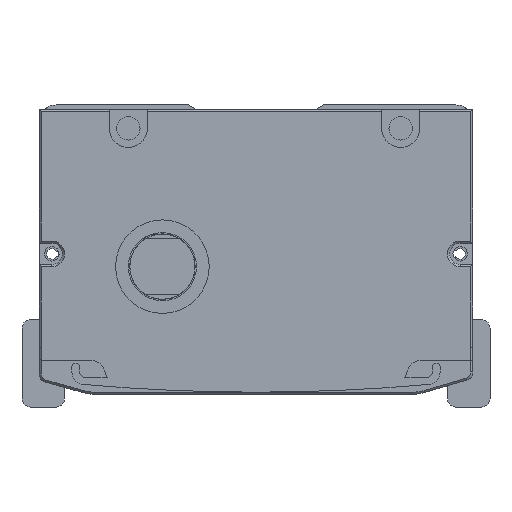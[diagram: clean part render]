
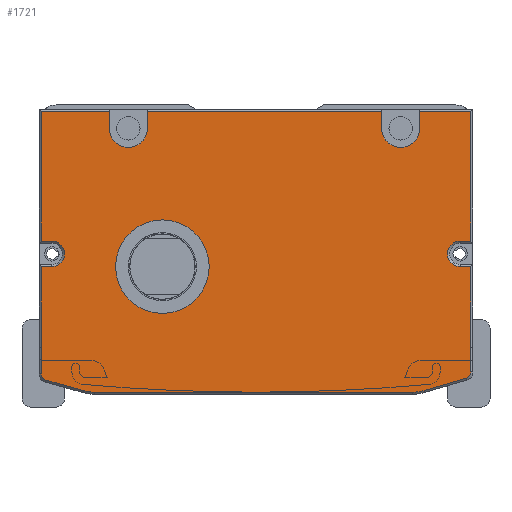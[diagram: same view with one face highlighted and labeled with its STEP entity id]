
A CAD part, front view. The second image highlights one B-rep face of the part: STEP entity #1721.
In plain terms, the highlighted planar face has unit normal (0, -1, 0).
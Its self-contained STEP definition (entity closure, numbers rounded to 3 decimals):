
#1018=FACE_BOUND('',#3599,.T.);
#1019=FACE_BOUND('',#3600,.T.);
#1721=ADVANCED_FACE('',(#1018,#1019),#2434,.F.);
#2434=PLANE('',#14626);
#3599=EDGE_LOOP('',(#6511));
#3600=EDGE_LOOP('',(#6512,#6513,#6514,#6515,#6516,#6517,#6518,#6519,#6520,
#6521,#6522,#6523,#6524,#6525,#6526,#6527,#6528,#6529,#6530,#6531,#6532,
#6533,#6534,#6535,#6536,#6537,#6538,#6539));
#4605=CIRCLE('',#14537,3.);
#4608=CIRCLE('',#14545,3.);
#4611=CIRCLE('',#14557,1.5);
#4613=CIRCLE('',#14561,9.5);
#4615=CIRCLE('',#14565,9.5);
#4617=CIRCLE('',#14569,1.5);
#4622=CIRCLE('',#14584,4.5);
#4626=CIRCLE('',#14590,4.5);
#4627=CIRCLE('',#14599,11.);
#6511=ORIENTED_EDGE('',*,*,#11044,.F.);
#6512=ORIENTED_EDGE('',*,*,#10938,.T.);
#6513=ORIENTED_EDGE('',*,*,#10834,.T.);
#6514=ORIENTED_EDGE('',*,*,#11025,.T.);
#6515=ORIENTED_EDGE('',*,*,#10838,.T.);
#6516=ORIENTED_EDGE('',*,*,#11073,.T.);
#6517=ORIENTED_EDGE('',*,*,#10844,.T.);
#6518=ORIENTED_EDGE('',*,*,#11021,.T.);
#6519=ORIENTED_EDGE('',*,*,#10848,.T.);
#6520=ORIENTED_EDGE('',*,*,#11074,.T.);
#6521=ORIENTED_EDGE('',*,*,#10942,.T.);
#6522=ORIENTED_EDGE('',*,*,#10948,.T.);
#6523=ORIENTED_EDGE('',*,*,#10951,.T.);
#6524=ORIENTED_EDGE('',*,*,#10954,.T.);
#6525=ORIENTED_EDGE('',*,*,#10956,.T.);
#6526=ORIENTED_EDGE('',*,*,#10986,.T.);
#6527=ORIENTED_EDGE('',*,*,#10990,.T.);
#6528=ORIENTED_EDGE('',*,*,#10993,.T.);
#6529=ORIENTED_EDGE('',*,*,#10996,.T.);
#6530=ORIENTED_EDGE('',*,*,#10999,.T.);
#6531=ORIENTED_EDGE('',*,*,#11002,.T.);
#6532=ORIENTED_EDGE('',*,*,#11005,.T.);
#6533=ORIENTED_EDGE('',*,*,#11007,.T.);
#6534=ORIENTED_EDGE('',*,*,#10984,.T.);
#6535=ORIENTED_EDGE('',*,*,#10974,.T.);
#6536=ORIENTED_EDGE('',*,*,#10971,.T.);
#6537=ORIENTED_EDGE('',*,*,#10968,.T.);
#6538=ORIENTED_EDGE('',*,*,#10965,.T.);
#6539=ORIENTED_EDGE('',*,*,#10960,.T.);
#9369=VERTEX_POINT('',#21525);
#9370=VERTEX_POINT('',#21527);
#9373=VERTEX_POINT('',#21534);
#9374=VERTEX_POINT('',#21536);
#9379=VERTEX_POINT('',#21547);
#9380=VERTEX_POINT('',#21549);
#9383=VERTEX_POINT('',#21556);
#9384=VERTEX_POINT('',#21558);
#9442=VERTEX_POINT('',#21744);
#9445=VERTEX_POINT('',#21752);
#9446=VERTEX_POINT('',#21753);
#9451=VERTEX_POINT('',#21764);
#9453=VERTEX_POINT('',#21770);
#9454=VERTEX_POINT('',#21775);
#9456=VERTEX_POINT('',#21781);
#9459=VERTEX_POINT('',#21789);
#9461=VERTEX_POINT('',#21795);
#9463=VERTEX_POINT('',#21801);
#9465=VERTEX_POINT('',#21807);
#9467=VERTEX_POINT('',#21813);
#9474=VERTEX_POINT('',#21837);
#9475=VERTEX_POINT('',#21841);
#9478=VERTEX_POINT('',#21848);
#9480=VERTEX_POINT('',#21854);
#9482=VERTEX_POINT('',#21860);
#9484=VERTEX_POINT('',#21866);
#9486=VERTEX_POINT('',#21872);
#9488=VERTEX_POINT('',#21878);
#9500=VERTEX_POINT('',#21951);
#10834=EDGE_CURVE('',#9370,#9369,#12491,.T.);
#10838=EDGE_CURVE('',#9374,#9373,#12495,.T.);
#10844=EDGE_CURVE('',#9380,#9379,#12501,.T.);
#10848=EDGE_CURVE('',#9384,#9383,#12505,.T.);
#10938=EDGE_CURVE('',#9442,#9370,#12578,.T.);
#10942=EDGE_CURVE('',#9445,#9446,#12582,.T.);
#10948=EDGE_CURVE('',#9446,#9451,#12588,.T.);
#10951=EDGE_CURVE('',#9451,#9453,#4605,.T.);
#10954=EDGE_CURVE('',#9453,#9454,#12592,.T.);
#10956=EDGE_CURVE('',#9454,#9456,#12594,.T.);
#10960=EDGE_CURVE('',#9459,#9442,#12598,.T.);
#10965=EDGE_CURVE('',#9461,#9459,#12603,.T.);
#10968=EDGE_CURVE('',#9463,#9461,#4608,.T.);
#10971=EDGE_CURVE('',#9465,#9463,#12607,.T.);
#10974=EDGE_CURVE('',#9467,#9465,#12610,.T.);
#10984=EDGE_CURVE('',#9474,#9467,#12618,.T.);
#10986=EDGE_CURVE('',#9456,#9475,#12620,.T.);
#10990=EDGE_CURVE('',#9475,#9478,#4611,.T.);
#10993=EDGE_CURVE('',#9478,#9480,#12625,.T.);
#10996=EDGE_CURVE('',#9480,#9482,#4613,.T.);
#10999=EDGE_CURVE('',#9482,#9484,#12629,.T.);
#11002=EDGE_CURVE('',#9484,#9486,#4615,.T.);
#11005=EDGE_CURVE('',#9486,#9488,#12633,.T.);
#11007=EDGE_CURVE('',#9488,#9474,#4617,.T.);
#11021=EDGE_CURVE('',#9379,#9384,#4622,.T.);
#11025=EDGE_CURVE('',#9369,#9374,#4626,.T.);
#11044=EDGE_CURVE('',#9500,#9500,#4627,.T.);
#11073=EDGE_CURVE('',#9373,#9380,#12684,.T.);
#11074=EDGE_CURVE('',#9383,#9445,#12685,.T.);
#12491=LINE('',#21526,#13431);
#12495=LINE('',#21535,#13435);
#12501=LINE('',#21548,#13441);
#12505=LINE('',#21557,#13445);
#12578=LINE('',#21743,#13518);
#12582=LINE('',#21751,#13522);
#12588=LINE('',#21765,#13528);
#12592=LINE('',#21777,#13532);
#12594=LINE('',#21780,#13534);
#12598=LINE('',#21788,#13538);
#12603=LINE('',#21798,#13543);
#12607=LINE('',#21810,#13547);
#12610=LINE('',#21816,#13550);
#12618=LINE('',#21836,#13558);
#12620=LINE('',#21840,#13560);
#12625=LINE('',#21855,#13565);
#12629=LINE('',#21867,#13569);
#12633=LINE('',#21879,#13573);
#12684=LINE('',#22013,#13624);
#12685=LINE('',#22014,#13625);
#13431=VECTOR('',#16759,1.);
#13435=VECTOR('',#16765,1.);
#13441=VECTOR('',#16773,1.);
#13445=VECTOR('',#16779,1.);
#13518=VECTOR('',#16946,1.);
#13522=VECTOR('',#16952,1.);
#13528=VECTOR('',#16960,1.);
#13532=VECTOR('',#16972,1.);
#13534=VECTOR('',#16976,1.);
#13538=VECTOR('',#16982,1.);
#13543=VECTOR('',#16989,1.);
#13547=VECTOR('',#17001,1.);
#13550=VECTOR('',#17006,1.);
#13558=VECTOR('',#17028,1.);
#13560=VECTOR('',#17032,1.);
#13565=VECTOR('',#17045,1.);
#13569=VECTOR('',#17057,1.);
#13573=VECTOR('',#17069,1.);
#13624=VECTOR('',#17236,1.);
#13625=VECTOR('',#17237,1.);
#14537=AXIS2_PLACEMENT_3D('',#21771,#16965,#16966);
#14545=AXIS2_PLACEMENT_3D('',#21804,#16995,#16996);
#14557=AXIS2_PLACEMENT_3D('',#21849,#17038,#17039);
#14561=AXIS2_PLACEMENT_3D('',#21861,#17050,#17051);
#14565=AXIS2_PLACEMENT_3D('',#21873,#17062,#17063);
#14569=AXIS2_PLACEMENT_3D('',#21882,#17073,#17074);
#14584=AXIS2_PLACEMENT_3D('',#21908,#17112,#17113);
#14590=AXIS2_PLACEMENT_3D('',#21916,#17124,#17125);
#14599=AXIS2_PLACEMENT_3D('',#21950,#17160,#17161);
#14626=AXIS2_PLACEMENT_3D('',#22015,#17238,#17239);
#16759=DIRECTION('',(0.,0.,-1.));
#16765=DIRECTION('',(0.,0.,1.));
#16773=DIRECTION('',(0.,0.,-1.));
#16779=DIRECTION('',(0.,0.,1.));
#16946=DIRECTION('',(-1.,0.,0.));
#16952=DIRECTION('',(0.,0.,-1.));
#16960=DIRECTION('',(1.,0.,0.));
#16965=DIRECTION('',(0.,1.,0.));
#16966=DIRECTION('',(0.,0.,1.));
#16972=DIRECTION('',(-1.,0.,0.));
#16976=DIRECTION('',(0.,0.,-1.));
#16982=DIRECTION('',(0.,0.,1.));
#16989=DIRECTION('',(1.,0.,0.));
#16995=DIRECTION('',(0.,1.,0.));
#16996=DIRECTION('',(0.,0.,1.));
#17001=DIRECTION('',(-1.,0.,0.));
#17006=DIRECTION('',(0.,0.,1.));
#17028=DIRECTION('',(0.,0.,1.));
#17032=DIRECTION('',(0.,0.,-1.));
#17038=DIRECTION('',(0.,-1.,0.));
#17039=DIRECTION('',(0.,0.,1.));
#17045=DIRECTION('',(0.963,0.,-0.269));
#17050=DIRECTION('',(0.,-1.,0.));
#17051=DIRECTION('',(0.,0.,1.));
#17057=DIRECTION('',(1.,0.,0.));
#17062=DIRECTION('',(0.,-1.,0.));
#17063=DIRECTION('',(0.,0.,1.));
#17069=DIRECTION('',(0.959,0.,0.282));
#17073=DIRECTION('',(0.,-1.,0.));
#17074=DIRECTION('',(0.,0.,1.));
#17112=DIRECTION('',(0.,1.,0.));
#17113=DIRECTION('',(0.,0.,1.));
#17124=DIRECTION('',(0.,1.,0.));
#17125=DIRECTION('',(0.,0.,1.));
#17160=DIRECTION('',(0.,-1.,0.));
#17161=DIRECTION('',(0.,0.,1.));
#17236=DIRECTION('',(-1.,0.,0.));
#17237=DIRECTION('',(-1.,0.,0.));
#17238=DIRECTION('',(0.,1.,0.));
#17239=DIRECTION('',(1.,0.,0.));
#21525=CARTESIAN_POINT('',(35.308,-307.5,-5.5));
#21526=CARTESIAN_POINT('',(35.308,-307.5,-1.));
#21527=CARTESIAN_POINT('',(35.308,-307.5,-1.5));
#21534=CARTESIAN_POINT('',(26.308,-307.5,-1.5));
#21535=CARTESIAN_POINT('',(26.308,-307.5,-1.));
#21536=CARTESIAN_POINT('',(26.308,-307.5,-5.5));
#21547=CARTESIAN_POINT('',(-28.692,-307.5,-5.5));
#21548=CARTESIAN_POINT('',(-28.692,-307.5,-1.));
#21549=CARTESIAN_POINT('',(-28.692,-307.5,-1.5));
#21556=CARTESIAN_POINT('',(-37.692,-307.5,-1.5));
#21557=CARTESIAN_POINT('',(-37.692,-307.5,-1.));
#21558=CARTESIAN_POINT('',(-37.692,-307.5,-5.5));
#21743=CARTESIAN_POINT('',(-53.692,-307.5,-1.5));
#21744=CARTESIAN_POINT('',(47.308,-307.5,-1.5));
#21751=CARTESIAN_POINT('',(-53.692,-307.5,-32.5));
#21752=CARTESIAN_POINT('',(-53.692,-307.5,-1.5));
#21753=CARTESIAN_POINT('',(-53.692,-307.5,-32.));
#21764=CARTESIAN_POINT('',(-51.192,-307.5,-32.));
#21765=CARTESIAN_POINT('',(-3.192,-307.5,-32.));
#21770=CARTESIAN_POINT('',(-51.192,-307.5,-38.));
#21771=CARTESIAN_POINT('',(-51.192,-307.5,-35.));
#21775=CARTESIAN_POINT('',(-53.692,-307.5,-38.));
#21777=CARTESIAN_POINT('',(-3.192,-307.5,-38.));
#21780=CARTESIAN_POINT('',(-53.692,-307.5,-57.));
#21781=CARTESIAN_POINT('',(-53.692,-307.5,-57.));
#21788=CARTESIAN_POINT('',(47.308,-307.5,-1.5));
#21789=CARTESIAN_POINT('',(47.308,-307.5,-32.));
#21795=CARTESIAN_POINT('',(44.808,-307.5,-32.));
#21798=CARTESIAN_POINT('',(-3.192,-307.5,-32.));
#21801=CARTESIAN_POINT('',(44.808,-307.5,-38.));
#21804=CARTESIAN_POINT('',(44.808,-307.5,-35.));
#21807=CARTESIAN_POINT('',(47.308,-307.5,-38.));
#21810=CARTESIAN_POINT('',(-3.192,-307.5,-38.));
#21813=CARTESIAN_POINT('',(47.308,-307.5,-57.));
#21816=CARTESIAN_POINT('',(47.308,-307.5,-37.5));
#21836=CARTESIAN_POINT('',(47.308,-307.5,-37.5));
#21837=CARTESIAN_POINT('',(47.308,-307.5,-62.758));
#21840=CARTESIAN_POINT('',(-53.692,-307.5,-59.712));
#21841=CARTESIAN_POINT('',(-53.692,-307.5,-63.212));
#21848=CARTESIAN_POINT('',(-52.596,-307.5,-64.657));
#21849=CARTESIAN_POINT('',(-52.192,-307.5,-63.212));
#21854=CARTESIAN_POINT('',(-43.674,-307.5,-67.15));
#21855=CARTESIAN_POINT('',(-43.674,-307.5,-67.15));
#21860=CARTESIAN_POINT('',(-41.118,-307.5,-67.5));
#21861=CARTESIAN_POINT('',(-41.118,-307.5,-58.));
#21866=CARTESIAN_POINT('',(33.631,-307.5,-67.5));
#21867=CARTESIAN_POINT('',(33.631,-307.5,-67.5));
#21872=CARTESIAN_POINT('',(36.312,-307.5,-67.114));
#21873=CARTESIAN_POINT('',(33.631,-307.5,-58.));
#21878=CARTESIAN_POINT('',(46.231,-307.5,-64.197));
#21879=CARTESIAN_POINT('',(46.231,-307.5,-64.197));
#21882=CARTESIAN_POINT('',(45.808,-307.5,-62.758));
#21908=CARTESIAN_POINT('',(-33.192,-307.5,-5.5));
#21916=CARTESIAN_POINT('',(30.808,-307.5,-5.5));
#21950=CARTESIAN_POINT('',(-25.192,-307.5,-38.));
#21951=CARTESIAN_POINT('',(-25.192,-307.5,-27.));
#22013=CARTESIAN_POINT('',(-53.692,-307.5,-1.5));
#22014=CARTESIAN_POINT('',(-53.692,-307.5,-1.5));
#22015=CARTESIAN_POINT('',(-3.192,-307.5,-1.));
